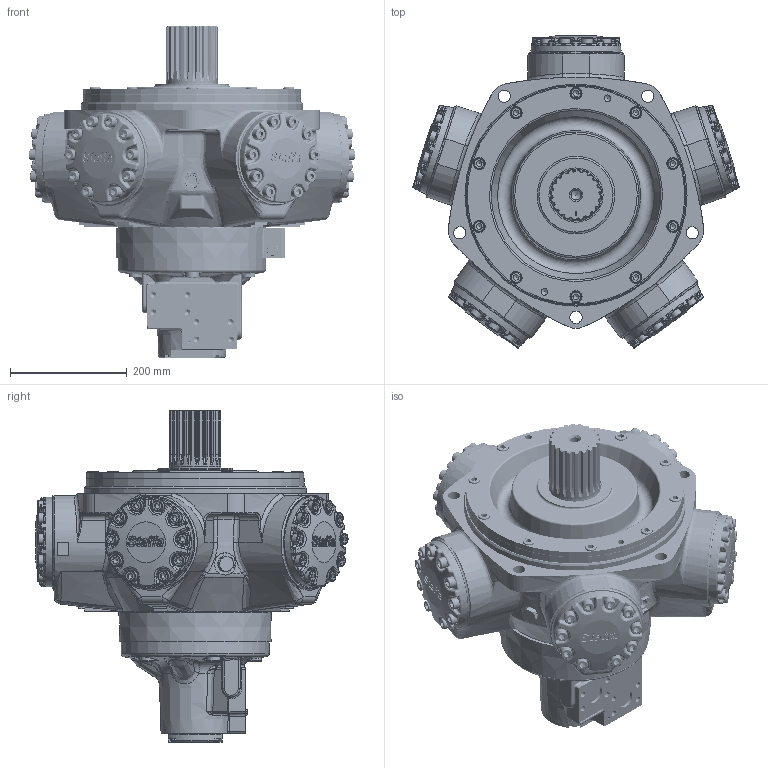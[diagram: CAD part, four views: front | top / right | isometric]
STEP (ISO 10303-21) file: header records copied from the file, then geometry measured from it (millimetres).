
FILE_DESCRIPTION(/* description */ (''),/* implementation_level */ '2;1');
FILE_NAME(/* name */ 'HMC 125_S3_FM3_C_70.stp',/* time_stamp */ '2025-04-28T08:55:52+01:00',/* author */ ('ccallanga'),/* organization */ (''),/* preprocessor_version */ 'ST-DEVELOPER v20',/* originating_system */ 'Autodesk Inventor 2024',/* authorisation */ '');
FILE_SCHEMA (('AUTOMOTIVE_DESIGN { 1 0 10303 214 3 1 1 }'));
Products named in the file (1): 017750 HMC125 WEBSITE ASSEMBLY_Simplify_1
Bounding box: 560.12 x 535.2 x 569.37 mm (x, y, z)
Volume: 40972665.7 mm3; surface area: 1098953.9 mm2
Topology: 1 solids, 1 shells, 4933 faces, 11968 edges, 7087 vertices
Faces by surface type: bspline 1775, plane 1271, cylinder 1054, torus 498, cone 189, sphere 146
Full cylindrical faces by diameter (mm): 4 x3, 4.134 x4, 5.5 x4, 9.4 x1, 10.109 x8, 11.328 x4, 11.913 x4, 12 x1, 12.7 x4, 16.51 x1, 17.323 x1, 19 x1, 19.05 x60, 20.637 x60, 21 x5, 23.825 x5, 25 x1, 25.4 x5, 26.92 x2, 31.75 x2, 38.1 x3, 68.58 x1, 87.889 x1, 88.837 x1, 92.964 x1, 127 x1, 158.75 x5, 254 x2, 373.255 x1, 373.596 x1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
Entity records: 226391 total; most frequent: CARTESIAN_POINT 119927, ORIENTED_EDGE 23472, DIRECTION 17208, EDGE_CURVE 11736, VERTEX_POINT 7087, AXIS2_PLACEMENT_3D 6799, EDGE_LOOP 5225, STYLED_ITEM 4934
